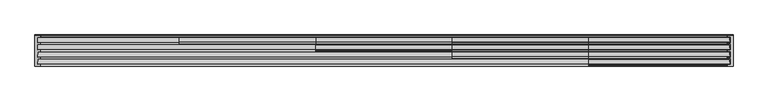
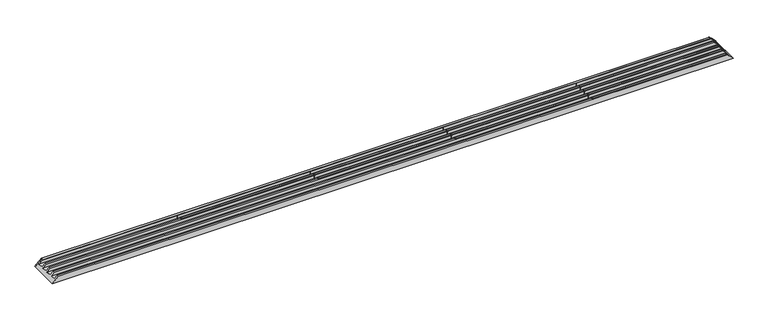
"""IFC4 building model written with IfcOpenShell, lengths in millimetres: proxy geometry, Weiku - Montante - Caixilho quíntuplo 02.2.01.003-003 refilado : Weiku - Montante - Caixilho quíntuplo 02.2.01.003-003 refilado."""

from ifc_helpers import new_model, si_unit, point, frame, frame_2d, origin, place, context, project, spatial, polyline, circle_curve, ellipse_curve, trimmed, segment, composite_curve, outline, extrude, faceted_brep, source, transform, mapped, element, save
from ifc_brep_helpers import plane_surface, cylinder_surface, revolved_surface, advanced_brep


def generic_models_517f6407(model_context):
    return source(origin(), model_context, "Body", "SolidModel", [
        advanced_brep(
        [(1756.2, 15.0, 52.0), (1756.2, 0.0, 52.0), (1756.2, 0.0, 55.0), (1756.2, 1.0, 56.0), (1756.2, 16.0, 56.0), (1756.2, 17.0, 55.0), (1756.2, 17.0, 28.908759), (1756.2, 60.0, 26.8749739), (1756.2, 60.0, 55.0), (1756.2, 61.0, 56.0), (1756.2, 78.0, 56.0), (1756.2, 79.0, 55.0), (1756.2, 79.0, 28.908759), (1756.2, 122.0, 26.8749739), (1756.2, 122.0, 55.0), (1756.2, 123.0, 56.0), (1756.2, 140.0, 56.0), (1756.2, 141.0, 55.0), (1756.2, 141.0, 28.908759), (1756.2, 184.0, 26.8749739), (1756.2, 184.0, 55.0), (1756.2, 185.0, 56.0), (1756.2, 202.0, 56.0), (1756.2, 203.0, 55.0), (1756.2, 203.0, 28.908759), (1756.2, 246.0, 26.8749739), (1756.2, 246.0, 52.0), (1756.2, 248.0, 52.0), (1756.2, 248.0, 23.7770256), (1756.2, 201.0, 26.0), (1756.2, 201.0, 52.0), (1756.2, 186.0, 52.0), (1756.2, 186.0, 23.7770256), (1756.2, 139.0, 26.0), (1756.2, 139.0, 52.0), (1756.2, 124.0, 52.0), (1756.2, 124.0, 23.7770256), (1756.2, 77.0, 26.0), (1756.2, 77.0, 52.0), (1756.2, 62.0, 52.0), (1756.2, 62.0, 23.7770256), (1756.2, 15.0, 26.0), (2945.0, 15.0, 52.0), (2945.0, 0.0, 52.0), (2942.0, 0.0, 55.0), (2941.0, 1.0, 56.0), (2941.0, 16.0, 56.0), (2942.0, 17.0, 55.0), (2968.091241, 17.0, 28.908759), (2970.1250261, 122.0, 26.8749739), (2942.0, 122.0, 55.0), (2945.0, 124.0, 52.0), (2973.2229744, 124.0, 23.7770256), (2971.0, 15.0, 26.0), (2941.0, 123.0, 56.0), (2941.0, 202.0, 56.0), (2942.0, 203.0, 55.0), (2968.091241, 203.0, 28.908759), (2970.1250261, 246.0, 26.8749739), (2945.0, 246.0, 52.0), (2945.0, 248.0, 52.0), (2973.2229744, 248.0, 23.7770256), (2971.0, 201.0, 26.0), (2945.0, 201.0, 52.0), (2941.0, 140.0, 56.0), (2942.0, 141.0, 55.0), (2968.091241, 141.0, 28.908759), (2970.1250261, 184.0, 26.8749739), (2942.0, 184.0, 55.0), (2941.0, 185.0, 56.0), (2945.0, 186.0, 52.0), (2973.2229744, 186.0, 23.7770256), (2971.0, 139.0, 26.0), (2945.0, 139.0, 52.0), (2970.1250261, 60.0, 26.8749739), (2942.0, 60.0, 55.0), (2941.0, 61.0, 56.0), (2941.0, 78.0, 56.0), (2942.0, 79.0, 55.0), (2968.091241, 79.0, 28.908759), (2971.0, 77.0, 26.0), (2945.0, 77.0, 52.0), (2945.0, 62.0, 52.0), (2973.2229744, 62.0, 23.7770256)],
        [
            (0, 1),
            (1, 2),
            (2, 3, circle_curve(frame((1756.2, 1.0, 55.0), z_axis=(-1.0, 0.0, 0.0), x_axis=(0.0, 1.0, 0.0)), 1.0)),
            (3, 4),
            (4, 5, circle_curve(frame((1756.2, 16.0, 55.0), z_axis=(-1.0, 0.0, 0.0), x_axis=(0.0, 1.0, 0.0)), 1.0)),
            (5, 6),
            (6, 7),
            (7, 8),
            (8, 9, circle_curve(frame((1756.2, 61.0, 55.0), z_axis=(-1.0, 0.0, 0.0), x_axis=(0.0, 1.0, 0.0)), 1.0)),
            (9, 10),
            (10, 11, circle_curve(frame((1756.2, 78.0, 55.0), z_axis=(-1.0, 0.0, 0.0), x_axis=(0.0, 1.0, 0.0)), 1.0)),
            (11, 12),
            (12, 13),
            (13, 14),
            (14, 15, circle_curve(frame((1756.2, 123.0, 55.0), z_axis=(-1.0, 0.0, 0.0), x_axis=(0.0, 1.0, 0.0)), 1.0)),
            (15, 16),
            (16, 17, circle_curve(frame((1756.2, 140.0, 55.0), z_axis=(-1.0, 0.0, 0.0), x_axis=(0.0, 1.0, 0.0)), 1.0)),
            (17, 18),
            (18, 19),
            (19, 20),
            (20, 21, circle_curve(frame((1756.2, 185.0, 55.0), z_axis=(-1.0, 0.0, 0.0), x_axis=(0.0, 1.0, 0.0)), 1.0)),
            (21, 22),
            (22, 23, circle_curve(frame((1756.2, 202.0, 55.0), z_axis=(-1.0, 0.0, 0.0), x_axis=(0.0, 1.0, 0.0)), 1.0)),
            (23, 24),
            (24, 25),
            (25, 26),
            (26, 27),
            (27, 28),
            (28, 29),
            (29, 30),
            (30, 31),
            (31, 32),
            (32, 33),
            (33, 34),
            (34, 35),
            (35, 36),
            (36, 37),
            (37, 38),
            (38, 39),
            (39, 40),
            (40, 41),
            (41, 0),
            (0, 42),
            (42, 43),
            (43, 1),
            (43, 44),
            (44, 2),
            (44, 45, ellipse_curve(frame((2942.0, 1.0, 55.0), z_axis=(-0.7071067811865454, 0.0, -0.7071067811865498), x_axis=(-0.7071067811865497, 0.0, 0.7071067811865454)), 1.4142136, 1.0)),
            (45, 3),
            (45, 46),
            (46, 4),
            (46, 47, ellipse_curve(frame((2942.0, 16.0, 55.0), z_axis=(-0.7071067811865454, 0.0, -0.7071067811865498), x_axis=(-0.7071067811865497, 0.0, 0.7071067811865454)), 1.4142136, 1.0)),
            (47, 5),
            (47, 48),
            (48, 6),
            (13, 49),
            (49, 50),
            (50, 14),
            (35, 51),
            (51, 52),
            (52, 36),
            (41, 53),
            (53, 42),
            (50, 54, ellipse_curve(frame((2942.0, 123.0, 55.0), z_axis=(-0.7071067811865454, 0.0, -0.7071067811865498), x_axis=(-0.7071067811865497, 0.0, 0.7071067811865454)), 1.4142136, 1.0)),
            (54, 15),
            (22, 55),
            (55, 56, ellipse_curve(frame((2942.0, 202.0, 55.0), z_axis=(-0.7071067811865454, 0.0, -0.7071067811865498), x_axis=(-0.7071067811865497, 0.0, 0.7071067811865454)), 1.4142136, 1.0)),
            (56, 23),
            (56, 57),
            (57, 24),
            (57, 58),
            (58, 25),
            (58, 59),
            (59, 26),
            (59, 60),
            (60, 27),
            (60, 61),
            (61, 28),
            (61, 62),
            (62, 29),
            (62, 63),
            (63, 30),
            (54, 64),
            (64, 16),
            (64, 65, ellipse_curve(frame((2942.0, 140.0, 55.0), z_axis=(-0.7071067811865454, 0.0, -0.7071067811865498), x_axis=(-0.7071067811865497, 0.0, 0.7071067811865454)), 1.4142136, 1.0)),
            (65, 17),
            (65, 66),
            (66, 18),
            (66, 67),
            (67, 19),
            (67, 68),
            (68, 20),
            (68, 69, ellipse_curve(frame((2942.0, 185.0, 55.0), z_axis=(-0.7071067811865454, 0.0, -0.7071067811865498), x_axis=(-0.7071067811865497, 0.0, 0.7071067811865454)), 1.4142136, 1.0)),
            (69, 21),
            (69, 55),
            (63, 70),
            (70, 31),
            (70, 71),
            (71, 32),
            (71, 72),
            (72, 33),
            (72, 73),
            (73, 34),
            (73, 51),
            (48, 74),
            (74, 7),
            (74, 75),
            (75, 8),
            (75, 76, ellipse_curve(frame((2942.0, 61.0, 55.0), z_axis=(-0.7071067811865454, 0.0, -0.7071067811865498), x_axis=(-0.7071067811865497, 0.0, 0.7071067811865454)), 1.4142136, 1.0)),
            (76, 9),
            (76, 77),
            (77, 10),
            (77, 78, ellipse_curve(frame((2942.0, 78.0, 55.0), z_axis=(-0.7071067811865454, 0.0, -0.7071067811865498), x_axis=(-0.7071067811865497, 0.0, 0.7071067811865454)), 1.4142136, 1.0)),
            (78, 11),
            (78, 79),
            (79, 12),
            (79, 49),
            (52, 80),
            (80, 37),
            (80, 81),
            (81, 38),
            (81, 82),
            (82, 39),
            (82, 83),
            (83, 40),
            (83, 53),
        ],
        [
            plane_surface(frame((1756.2, 0.0, 0.0), z_axis=(-1.0, 0.0, 0.0), x_axis=(0.0, 0.0, 1.0))),
            plane_surface(frame((1756.2, 15.0, 52.0), z_axis=(0.0, 0.0, -1.0), x_axis=(1.0, 0.0, 0.0))),
            plane_surface(frame((1756.2, 0.0, 52.0), z_axis=(0.0, -1.0, 0.0), x_axis=(1.0, 0.0, 0.0))),
            cylinder_surface(frame((1756.2, 1.0, 55.0), z_axis=(-1.0, 0.0, 0.0), x_axis=(0.0, 1.0, 0.0)), 1.0),
            plane_surface(frame((1756.2, 1.0, 56.0), z_axis=(0.0, 0.0, 1.0), x_axis=(1.0, 0.0, 0.0))),
            cylinder_surface(frame((1756.2, 16.0, 55.0), z_axis=(-1.0, 0.0, 0.0), x_axis=(0.0, 1.0, 0.0)), 1.0),
            plane_surface(frame((1756.2, 17.0, 55.0), z_axis=(0.0, 1.0, 0.0), x_axis=(1.0, 0.0, 0.0))),
            plane_surface(frame((1756.2, 122.0, 26.8749739), z_axis=(0.0, -1.0, 0.0), x_axis=(1.0, 0.0, 0.0))),
            plane_surface(frame((1756.2, 124.0, 52.0), z_axis=(0.0, 1.0, 0.0), x_axis=(1.0, 0.0, 0.0))),
            plane_surface(frame((1756.2, 15.0, 26.0), z_axis=(0.0, -1.0, 0.0), x_axis=(1.0, 0.0, 0.0))),
            cylinder_surface(frame((1756.2, 123.0, 55.0), z_axis=(-1.0, 0.0, 0.0), x_axis=(0.0, 1.0, 0.0)), 1.0),
            cylinder_surface(frame((1756.2, 202.0, 55.0), z_axis=(-1.0, 0.0, 0.0), x_axis=(0.0, 1.0, 0.0)), 1.0),
            plane_surface(frame((1756.2, 203.0, 55.0), z_axis=(0.0, 1.0, 0.0), x_axis=(1.0, 0.0, 0.0))),
            plane_surface(frame((1756.2, 203.0, 28.908759), z_axis=(0.0, 0.0472445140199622, 0.9988833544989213), x_axis=(1.0, 0.0, 0.0))),
            plane_surface(frame((1756.2, 246.0, 26.8749739), z_axis=(0.0, -1.0, 0.0), x_axis=(1.0, 0.0, 0.0))),
            plane_surface(frame((1756.2, 246.0, 52.0), z_axis=(0.0, 0.0, 1.0), x_axis=(1.0, 0.0, 0.0))),
            plane_surface(frame((1756.2, 248.0, 52.0), z_axis=(0.0, 1.0, 0.0), x_axis=(1.0, 0.0, 0.0))),
            plane_surface(frame((1756.2, 248.0, 23.7770256), z_axis=(0.0, -0.047244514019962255, -0.9988833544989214), x_axis=(1.0, 0.0, 0.0))),
            plane_surface(frame((1756.2, 201.0, 26.0), z_axis=(0.0, -1.0, 0.0), x_axis=(1.0, 0.0, 0.0))),
            plane_surface(frame((1756.2, 123.0, 56.0), z_axis=(0.0, 0.0, 1.0), x_axis=(1.0, 0.0, 0.0))),
            cylinder_surface(frame((1756.2, 140.0, 55.0), z_axis=(-1.0, 0.0, 0.0), x_axis=(0.0, 1.0, 0.0)), 1.0),
            plane_surface(frame((1756.2, 141.0, 55.0), z_axis=(0.0, 1.0, 0.0), x_axis=(1.0, 0.0, 0.0))),
            plane_surface(frame((1756.2, 141.0, 28.908759), z_axis=(0.0, 0.0472445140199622, 0.9988833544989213), x_axis=(1.0, 0.0, 0.0))),
            plane_surface(frame((1756.2, 184.0, 26.8749739), z_axis=(0.0, -1.0, 0.0), x_axis=(1.0, 0.0, 0.0))),
            cylinder_surface(frame((1756.2, 185.0, 55.0), z_axis=(-1.0, 0.0, 0.0), x_axis=(0.0, 1.0, 0.0)), 1.0),
            plane_surface(frame((1756.2, 185.0, 56.0), z_axis=(0.0, 0.0, 1.0), x_axis=(1.0, 0.0, 0.0))),
            plane_surface(frame((1756.2, 201.0, 52.0), z_axis=(0.0, 0.0, -1.0), x_axis=(1.0, 0.0, 0.0))),
            plane_surface(frame((1756.2, 186.0, 52.0), z_axis=(0.0, 1.0, 0.0), x_axis=(1.0, 0.0, 0.0))),
            plane_surface(frame((1756.2, 186.0, 23.7770256), z_axis=(0.0, -0.047244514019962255, -0.9988833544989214), x_axis=(1.0, 0.0, 0.0))),
            plane_surface(frame((1756.2, 139.0, 26.0), z_axis=(0.0, -1.0, 0.0), x_axis=(1.0, 0.0, 0.0))),
            plane_surface(frame((1756.2, 139.0, 52.0), z_axis=(0.0, 0.0, -1.0), x_axis=(1.0, 0.0, 0.0))),
            plane_surface(frame((1756.2, 17.0, 28.908759), z_axis=(0.0, 0.0472445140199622, 0.9988833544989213), x_axis=(1.0, 0.0, 0.0))),
            plane_surface(frame((1756.2, 60.0, 26.8749739), z_axis=(0.0, -1.0, 0.0), x_axis=(1.0, 0.0, 0.0))),
            cylinder_surface(frame((1756.2, 61.0, 55.0), z_axis=(-1.0, 0.0, 0.0), x_axis=(0.0, 1.0, 0.0)), 1.0),
            plane_surface(frame((1756.2, 61.0, 56.0), z_axis=(0.0, 0.0, 1.0), x_axis=(1.0, 0.0, 0.0))),
            cylinder_surface(frame((1756.2, 78.0, 55.0), z_axis=(-1.0, 0.0, 0.0), x_axis=(0.0, 1.0, 0.0)), 1.0),
            plane_surface(frame((1756.2, 79.0, 55.0), z_axis=(0.0, 1.0, 0.0), x_axis=(1.0, 0.0, 0.0))),
            plane_surface(frame((1756.2, 79.0, 28.908759), z_axis=(0.0, 0.0472445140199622, 0.9988833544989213), x_axis=(1.0, 0.0, 0.0))),
            plane_surface(frame((1756.2, 124.0, 23.7770256), z_axis=(0.0, -0.047244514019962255, -0.9988833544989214), x_axis=(1.0, 0.0, 0.0))),
            plane_surface(frame((1756.2, 77.0, 26.0), z_axis=(0.0, -1.0, 0.0), x_axis=(1.0, 0.0, 0.0))),
            plane_surface(frame((1756.2, 77.0, 52.0), z_axis=(0.0, 0.0, -1.0), x_axis=(1.0, 0.0, 0.0))),
            plane_surface(frame((1756.2, 62.0, 52.0), z_axis=(0.0, 1.0, 0.0), x_axis=(1.0, 0.0, 0.0))),
            plane_surface(frame((1756.2, 62.0, 23.7770256), z_axis=(0.0, -0.047244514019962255, -0.9988833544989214), x_axis=(1.0, 0.0, 0.0))),
            plane_surface(frame((2997.0, -12.7162259, 0.0), z_axis=(0.7071067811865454, 0.0, 0.7071067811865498), x_axis=(-0.7071067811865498, 0.0, 0.7071067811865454))),
        ],
        [
            (0, [[1, 2, 3, 4, 5, 6, 7, 8, 9, 10, 11, 12, 13, 14, 15, 16, 17, 18, 19, 20, 21, 22, 23, 24, 25, 26, 27, 28, 29, 30, 31, 32, 33, 34, 35, 36, 37, 38, 39, 40, 41, 42]]),
            (1, [[-1, 43, 44, 45]]),
            (2, [[-2, -45, 46, 47]]),
            (3, [[-3, -47, 48, 49]]),
            (4, [[-4, -49, 50, 51]]),
            (5, [[-5, -51, 52, 53]]),
            (6, [[-6, -53, 54, 55]]),
            (7, [[-14, 56, 57, 58]]),
            (8, [[-36, 59, 60, 61]]),
            (9, [[-42, 62, 63, -43]]),
            (10, [[-15, -58, 64, 65]]),
            (11, [[-23, 66, 67, 68]]),
            (12, [[-24, -68, 69, 70]]),
            (13, [[-25, -70, 71, 72]]),
            (14, [[-26, -72, 73, 74]]),
            (15, [[-27, -74, 75, 76]]),
            (16, [[-28, -76, 77, 78]]),
            (17, [[-29, -78, 79, 80]]),
            (18, [[-30, -80, 81, 82]]),
            (19, [[-16, -65, 83, 84]]),
            (20, [[-17, -84, 85, 86]]),
            (21, [[-18, -86, 87, 88]]),
            (22, [[-19, -88, 89, 90]]),
            (23, [[-20, -90, 91, 92]]),
            (24, [[-21, -92, 93, 94]]),
            (25, [[-22, -94, 95, -66]]),
            (26, [[-31, -82, 96, 97]]),
            (27, [[-32, -97, 98, 99]]),
            (28, [[-33, -99, 100, 101]]),
            (29, [[-34, -101, 102, 103]]),
            (30, [[-35, -103, 104, -59]]),
            (31, [[-7, -55, 105, 106]]),
            (32, [[-8, -106, 107, 108]]),
            (33, [[-9, -108, 109, 110]]),
            (34, [[-10, -110, 111, 112]]),
            (35, [[-11, -112, 113, 114]]),
            (36, [[-12, -114, 115, 116]]),
            (37, [[-13, -116, 117, -56]]),
            (38, [[-37, -61, 118, 119]]),
            (39, [[-38, -119, 120, 121]]),
            (40, [[-39, -121, 122, 123]]),
            (41, [[-40, -123, 124, 125]]),
            (42, [[-41, -125, 126, -62]]),
            (43, [[-44, -63, -126, -124, -122, -120, -118, -60, -104, -102, -100, -98, -96, -81, -79, -77, -75, -73, -71, -69, -67, -95, -93, -91, -89, -87, -85, -83, -64, -57, -117, -115, -113, -111, -109, -107, -105, -54, -52, -50, -48, -46]]),
        ],
    ),
        extrude(outline(composite_curve([segment(polyline([(77.0, 52.0), (62.0, 52.0), (62.0, 55.0)]), True, "CONTINUOUS"), segment(trimmed(circle_curve(frame_2d((63.0, 55.0)), 1.0), [point((62.0, 55.0))], [point((63.0, 56.0))], False, "CARTESIAN"), True, "CONTINUOUS"), segment(polyline([(63.0, 56.0), (78.0, 56.0)]), True, "CONTINUOUS"), segment(trimmed(circle_curve(frame_2d((78.0, 55.0)), 1.0), [point((78.0, 56.0))], [point((79.0, 55.0))], False, "CARTESIAN"), True, "CONTINUOUS"), segment(polyline([(79.0, 55.0), (79.0, 28.908759), (122.0, 26.8749739), (122.0, 55.0)]), True, "CONTINUOUS"), segment(trimmed(circle_curve(frame_2d((123.0, 55.0)), 1.0), [point((122.0, 55.0))], [point((123.0, 56.0))], False, "CARTESIAN"), True, "CONTINUOUS"), segment(polyline([(123.0, 56.0), (140.0, 56.0)]), True, "CONTINUOUS"), segment(trimmed(circle_curve(frame_2d((140.0, 55.0)), 1.0), [point((140.0, 56.0))], [point((141.0, 55.0))], False, "CARTESIAN"), True, "CONTINUOUS"), segment(polyline([(141.0, 55.0), (141.0, 28.908759), (184.0, 26.8749739), (184.0, 55.0)]), True, "CONTINUOUS"), segment(trimmed(circle_curve(frame_2d((185.0, 55.0)), 1.0), [point((184.0, 55.0))], [point((185.0, 56.0))], False, "CARTESIAN"), True, "CONTINUOUS"), segment(polyline([(185.0, 56.0), (202.0, 56.0)]), True, "CONTINUOUS"), segment(trimmed(circle_curve(frame_2d((202.0, 55.0)), 1.0), [point((202.0, 56.0))], [point((203.0, 55.0))], False, "CARTESIAN"), True, "CONTINUOUS"), segment(polyline([(203.0, 55.0), (203.0, 28.908759), (246.0, 26.8749739), (246.0, 52.0), (248.0, 52.0), (248.0, 23.7770256), (201.0, 26.0), (201.0, 52.0), (186.0, 52.0), (186.0, 23.7770256), (139.0, 26.0), (139.0, 52.0), (124.0, 52.0), (124.0, 23.7770256), (77.0, 26.0), (77.0, 52.0)]), True, "CONTINUOUS")], self_intersect=False)), frame((585.4, 0.0, 0.0), z_axis=(1.0, 0.0, 0.0), x_axis=(0.0, 1.0, 0.0)), (0.0, 0.0, 1.0), 1170.8),
        advanced_brep(
        [(-2942.0, 246.0, 55.0), (-2945.0, 246.0, 52.0), (2945.0, 246.0, 52.0), (2942.0, 246.0, 55.0), (-2941.0, 247.0, 56.0), (2941.0, 247.0, 56.0), (-2941.0, 264.0, 56.0), (2941.0, 264.0, 56.0), (-2942.0, 265.0, 55.0), (2942.0, 265.0, 55.0), (-2956.0, 265.0, 41.0), (2956.0, 265.0, 41.0), (-2959.0, 266.0, 38.0), (2959.0, 266.0, 38.0), (-2962.0, 267.0, 35.0), (2962.0, 267.0, 35.0), (2997.0, 267.0, 0.0), (-2997.0, 267.0, 0.0), (2997.0, 263.0, 0.0), (-2997.0, 263.0, 0.0), (2945.0, 263.0, 52.0), (-2945.0, 263.0, 52.0)],
        [
            (0, 1),
            (1, 2),
            (2, 3),
            (3, 0),
            (4, 0, ellipse_curve(frame((-2942.0, 247.0, 55.0), z_axis=(0.707106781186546, 0.0, -0.7071067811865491), x_axis=(-0.7071067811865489, 0.0, -0.707106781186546)), 1.4142136, 1.0)),
            (3, 5, ellipse_curve(frame((2942.0, 247.0, 55.0), z_axis=(-0.7071067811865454, 0.0, -0.7071067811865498), x_axis=(-0.7071067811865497, 0.0, 0.7071067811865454)), 1.4142136, 1.0)),
            (5, 4),
            (6, 4),
            (5, 7),
            (7, 6),
            (8, 6, ellipse_curve(frame((-2942.0, 264.0, 55.0), z_axis=(0.707106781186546, 0.0, -0.7071067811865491), x_axis=(-0.7071067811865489, 0.0, -0.707106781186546)), 1.4142136, 1.0)),
            (7, 9, ellipse_curve(frame((2942.0, 264.0, 55.0), z_axis=(-0.7071067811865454, 0.0, -0.7071067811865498), x_axis=(-0.7071067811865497, 0.0, 0.7071067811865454)), 1.4142136, 1.0)),
            (9, 8),
            (10, 8),
            (9, 11),
            (11, 10),
            (12, 10, ellipse_curve(frame((-2956.0, 270.0, 41.0), z_axis=(-0.707106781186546, 0.0, 0.7071067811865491), x_axis=(0.7071067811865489, 0.0, 0.707106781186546)), 7.0710678, 5.0)),
            (11, 13, ellipse_curve(frame((2956.0, 270.0, 41.0), z_axis=(0.7071067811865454, 0.0, 0.7071067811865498), x_axis=(0.7071067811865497, 0.0, -0.7071067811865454)), 7.0710678, 5.0)),
            (13, 12),
            (14, 12, ellipse_curve(frame((-2962.0, 262.0, 35.0), z_axis=(0.707106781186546, 0.0, -0.7071067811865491), x_axis=(-0.7071067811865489, 0.0, -0.707106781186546)), 7.0710678, 5.0)),
            (13, 15, ellipse_curve(frame((2962.0, 262.0, 35.0), z_axis=(-0.7071067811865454, 0.0, -0.7071067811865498), x_axis=(-0.7071067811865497, 0.0, 0.7071067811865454)), 7.0710678, 5.0)),
            (15, 14),
            (16, 17),
            (17, 14),
            (15, 16),
            (16, 18),
            (18, 19),
            (19, 17),
            (18, 20),
            (20, 21),
            (21, 19),
            (1, 21),
            (20, 2),
        ],
        [
            plane_surface(frame((-2997.0, 246.0, 52.0), z_axis=(0.0, -1.0, 0.0), x_axis=(1.0, 0.0, 0.0))),
            cylinder_surface(frame((-2997.0, 247.0, 55.0), z_axis=(-1.0, 0.0, 0.0), x_axis=(0.0, 1.0, 0.0)), 1.0),
            plane_surface(frame((-2997.0, 247.0, 56.0), z_axis=(0.0, 0.0, 1.0), x_axis=(1.0, 0.0, 0.0))),
            cylinder_surface(frame((-2997.0, 264.0, 55.0), z_axis=(-1.0, 0.0, 0.0), x_axis=(0.0, 1.0, 0.0)), 1.0),
            plane_surface(frame((-2997.0, 265.0, 55.0), z_axis=(0.0, 1.0, 0.0), x_axis=(1.0, 0.0, 0.0))),
            revolved_surface(polyline([(2960.99999999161, 275.0, 41.0), (-2960.99999999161, 275.0, 41.0)]), (-2997.0, 270.0, 41.0), (1.0, 0.0, 0.0)),
            cylinder_surface(frame((-2997.0, 262.0, 35.0), z_axis=(-1.0, 0.0, 0.0), x_axis=(0.0, 1.0, 0.0)), 5.0),
            plane_surface(frame((-2997.0, 267.0, 35.0), z_axis=(0.0, 1.0, 0.0), x_axis=(1.0, 0.0, 0.0))),
            plane_surface(frame((-2997.0, 267.0, 0.0), z_axis=(0.0, 0.0, -1.0), x_axis=(1.0, 0.0, 0.0))),
            plane_surface(frame((-2997.0, 263.0, 0.0), z_axis=(0.0, -1.0, 0.0), x_axis=(1.0, 0.0, 0.0))),
            plane_surface(frame((-2997.0, 263.0, 52.0), z_axis=(0.0, 0.0, -1.0), x_axis=(1.0, 0.0, 0.0))),
            plane_surface(frame((-2997.0, 287.2837741, 0.0), z_axis=(-0.707106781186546, 0.0, 0.7071067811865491), x_axis=(0.7071067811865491, 0.0, 0.707106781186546))),
            plane_surface(frame((2997.0, -12.7162259, 0.0), z_axis=(0.7071067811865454, 0.0, 0.7071067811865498), x_axis=(-0.7071067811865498, 0.0, 0.7071067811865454))),
        ],
        [
            (0, [[1, 2, 3, 4]]),
            (1, [[5, -4, 6, 7]]),
            (2, [[8, -7, 9, 10]]),
            (3, [[11, -10, 12, 13]]),
            (4, [[14, -13, 15, 16]]),
            (5, [[17, -16, 18, 19]]),
            (6, [[20, -19, 21, 22]]),
            (7, [[23, 24, -22, 25]]),
            (8, [[-23, 26, 27, 28]]),
            (9, [[-27, 29, 30, 31]]),
            (10, [[32, -30, 33, -2]]),
            (11, [[-1, -5, -8, -11, -14, -17, -20, -24, -28, -31, -32]]),
            (12, [[-3, -33, -29, -26, -25, -21, -18, -15, -12, -9, -6]]),
        ],
    ),
        faceted_brep([(-2971.0, 139.0, 26.0), (-2945.0, 139.0, 52.0), (2945.0, 139.0, 52.0), (2971.0, 139.0, 26.0), (-2973.2229744, 186.0, 23.7770256), (2973.2229744, 186.0, 23.7770256), (-2945.0, 186.0, 52.0), (2945.0, 186.0, 52.0), (-2945.0, 201.0, 52.0), (2945.0, 201.0, 52.0), (-2997.0, 263.0, 0.0), (2997.0, 263.0, 0.0), (2997.0, 0.0, 0.0), (-2997.0, 0.0, 0.0), (-2945.0, 124.0, 52.0), (2945.0, 124.0, 52.0), (-2971.0, 201.0, 26.0), (2971.0, 201.0, 26.0), (-2973.2229744, 248.0, 23.7770256), (2973.2229744, 248.0, 23.7770256), (-2945.0, 248.0, 52.0), (2945.0, 248.0, 52.0), (-2945.0, 263.0, 52.0), (2945.0, 263.0, 52.0), (2945.0, 0.0, 52.0), (-2945.0, 0.0, 52.0), (-2973.2229744, 124.0, 23.7770256), (2973.2229744, 124.0, 23.7770256), (-2945.0, 15.0, 52.0), (-2971.0, 15.0, 26.0), (-2973.2229744, 62.0, 23.7770256), (-2945.0, 62.0, 52.0), (-2945.0, 77.0, 52.0), (-2971.0, 77.0, 26.0), (2971.0, 77.0, 26.0), (2945.0, 77.0, 52.0), (2945.0, 62.0, 52.0), (2973.2229744, 62.0, 23.7770256), (2971.0, 15.0, 26.0), (2945.0, 15.0, 52.0)], [[[0, 1, 2, 3]], [[4, 0, 3, 5]], [[6, 4, 5, 7]], [[8, 6, 7, 9]], [[10, 11, 12, 13]], [[1, 14, 15, 2]], [[16, 8, 9, 17]], [[18, 16, 17, 19]], [[20, 18, 19, 21]], [[22, 20, 21, 23]], [[11, 10, 22, 23]], [[13, 12, 24, 25]], [[14, 26, 27, 15]], [[1, 0, 4, 6, 8, 16, 18, 20, 22, 10, 13, 25, 28, 29, 30, 31, 32, 33, 26, 14]], [[3, 2, 15, 27, 34, 35, 36, 37, 38, 39, 24, 12, 11, 23, 21, 19, 17, 9, 7, 5]], [[28, 25, 24, 39]], [[29, 28, 39, 38]], [[30, 29, 38, 37]], [[31, 30, 37, 36]], [[32, 31, 36, 35]], [[33, 32, 35, 34]], [[26, 33, 34, 27]]]),
        extrude(outline(composite_curve([segment(polyline([(201.0, 52.0), (186.0, 52.0), (186.0, 55.0)]), True, "CONTINUOUS"), segment(trimmed(circle_curve(frame_2d((187.0, 55.0)), 1.0), [point((186.0, 55.0))], [point((187.0, 56.0))], False, "CARTESIAN"), True, "CONTINUOUS"), segment(polyline([(187.0, 56.0), (202.0, 56.0)]), True, "CONTINUOUS"), segment(trimmed(circle_curve(frame_2d((202.0, 55.0)), 1.0), [point((202.0, 56.0))], [point((203.0, 55.0))], False, "CARTESIAN"), True, "CONTINUOUS"), segment(polyline([(203.0, 55.0), (203.0, 28.908759), (246.0, 26.8749739), (246.0, 52.0), (248.0, 52.0), (248.0, 23.7770256), (201.0, 26.0), (201.0, 52.0)]), True, "CONTINUOUS")], self_intersect=False)), frame((-1756.2, 0.0, 0.0), z_axis=(1.0, 0.0, 0.0), x_axis=(0.0, 1.0, 0.0)), (0.0, 0.0, 1.0), 1170.8),
        extrude(outline(composite_curve([segment(polyline([(139.0, 52.0), (124.0, 52.0), (124.0, 55.0)]), True, "CONTINUOUS"), segment(trimmed(circle_curve(frame_2d((125.0, 55.0)), 1.0), [point((124.0, 55.0))], [point((125.0, 56.0))], False, "CARTESIAN"), True, "CONTINUOUS"), segment(polyline([(125.0, 56.0), (140.0, 56.0)]), True, "CONTINUOUS"), segment(trimmed(circle_curve(frame_2d((140.0, 55.0)), 1.0), [point((140.0, 56.0))], [point((141.0, 55.0))], False, "CARTESIAN"), True, "CONTINUOUS"), segment(polyline([(141.0, 55.0), (141.0, 28.908759), (184.0, 26.8749739), (184.0, 55.0)]), True, "CONTINUOUS"), segment(trimmed(circle_curve(frame_2d((185.0, 55.0)), 1.0), [point((184.0, 55.0))], [point((185.0, 56.0))], False, "CARTESIAN"), True, "CONTINUOUS"), segment(polyline([(185.0, 56.0), (202.0, 56.0)]), True, "CONTINUOUS"), segment(trimmed(circle_curve(frame_2d((202.0, 55.0)), 1.0), [point((202.0, 56.0))], [point((203.0, 55.0))], False, "CARTESIAN"), True, "CONTINUOUS"), segment(polyline([(203.0, 55.0), (203.0, 28.908759), (246.0, 26.8749739), (246.0, 52.0), (248.0, 52.0), (248.0, 23.7770256), (201.0, 26.0), (201.0, 52.0), (186.0, 52.0), (186.0, 23.7770256), (139.0, 26.0), (139.0, 52.0)]), True, "CONTINUOUS")], self_intersect=False)), frame((-585.4, 0.0, 0.0), z_axis=(1.0, 0.0, 0.0), x_axis=(0.0, 1.0, 0.0)), (0.0, 0.0, 1.0), 1170.8),
    ])


if __name__ == "__main__":
    model = new_model("IFC4")
    model_context = context("Model", 3, world=origin())
    ifc_project = project(units=[si_unit("LENGTHUNIT", "METRE", prefix="MILLI")], contexts=[model_context])
    site = spatial("IfcSite", under=ifc_project)
    building = spatial("IfcBuilding", under=site)
    placement = place(None, origin())
    generic_models_shape = generic_models_517f6407(model_context)
    element("IfcBuildingElementProxy", 1, Name="Weiku - Montante - Caixilho quíntuplo 02.2.01.003-003 refilado : Weiku - Montante - Caixilho quíntuplo 02.2.01.003-003 refilado", ObjectType="Weiku - Montante - Caixilho quíntuplo 02.2.01.003-003 refilado : Weiku - Montante - Caixilho quíntuplo 02.2.01.003-003 refilado", at=placement, inside=building, context=model_context, shape_type="MappedRepresentation", body=[
        mapped(generic_models_shape, transform((0.0, 0.0, 0.0), x_axis=(1.0, 0.0, 0.0), y_axis=(0.0, 1.0, 0.0), z_axis=(0.0, 0.0, 1.0))),
    ])
    save(model, "model.ifc")
